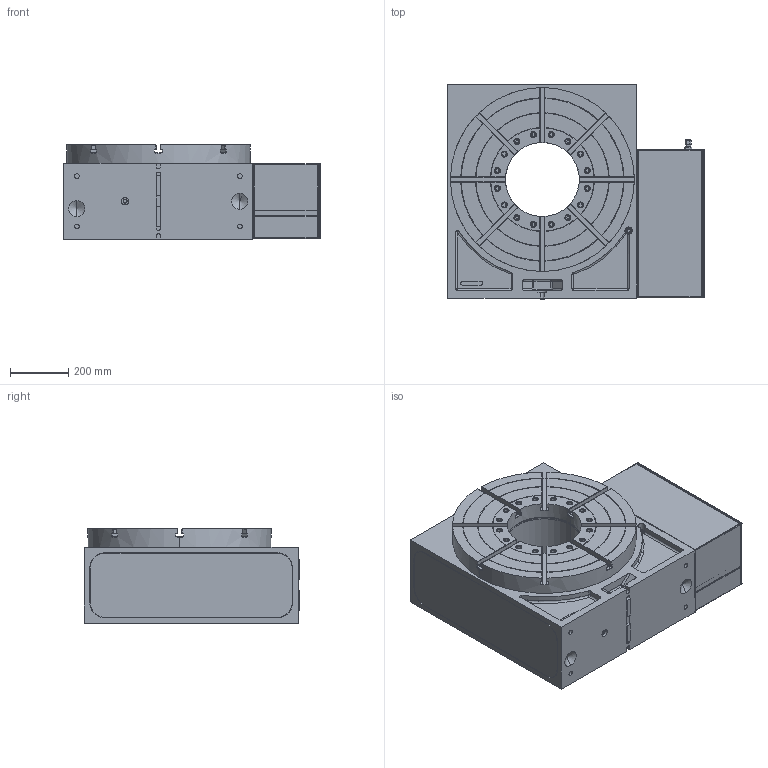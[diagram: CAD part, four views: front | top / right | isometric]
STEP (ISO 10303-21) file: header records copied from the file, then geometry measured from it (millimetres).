
FILE_DESCRIPTION (( 'STEP AP214' ), '1' );
FILE_NAME ('HRT630_STEP_10-2019.STEP', '2019-10-07T22:03:52', ( '' ), ( '' ), 'SwSTEP 2.0', 'SolidWorks 2019', '' );
FILE_SCHEMA (( 'AUTOMOTIVE_DESIGN' ));
Length unit declared in the file: inch
Products named in the file (4): Group2^10000101114_defeature; 10000099992-1^10000101114_defeature; HRT630_STEP_10-2019; Group1^10000101114_defeature
Assembly tree (3 placements, depth 2):
  HRT630_STEP_10-2019
    Group1^10000101114_defeature
    Group2^10000101114_defeature
    10000099992-1^10000101114_defeature
Bounding box: 879.64 x 739.14 x 323.85 mm (x, y, z)
Volume: 138163227.9 mm3; surface area: 5126045.4 mm2
Topology: 15 solids, 15 shells, 2491 faces, 6588 edges, 4258 vertices
Faces by surface type: plane 753, cylinder 719, sphere 625, cone 233, bspline 101, torus 60
Entity records: 107250 total; most frequent: CARTESIAN_POINT 32993, DIRECTION 13519, ORIENTED_EDGE 13124, EDGE_CURVE 6562, AXIS2_PLACEMENT_3D 5452, VERTEX_POINT 4251, CIRCLE 3056, EDGE_LOOP 2647
